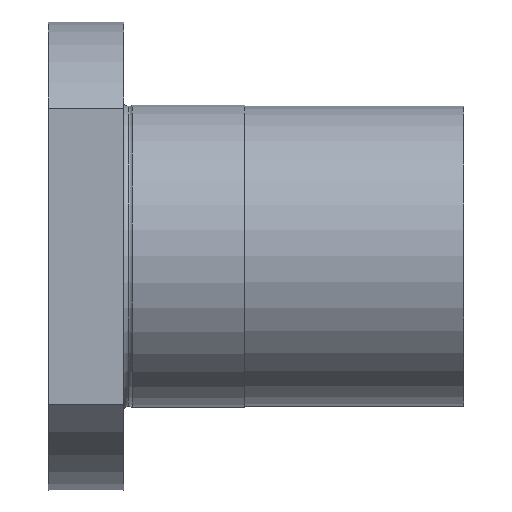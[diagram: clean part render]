
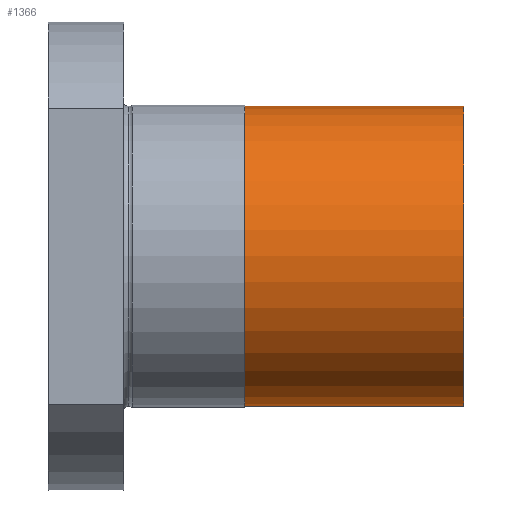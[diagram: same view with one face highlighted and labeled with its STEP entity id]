
A CAD part, front view. The second image highlights one B-rep face of the part: STEP entity #1366.
In plain terms, the highlighted cylindrical face has radius 19.85 mm (diameter 39.7 mm), a partial arc.
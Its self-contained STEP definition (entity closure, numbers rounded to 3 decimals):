
#78 = VERTEX_POINT ( 'NONE', #1785 ) ;
#137 = VERTEX_POINT ( 'NONE', #1100 ) ;
#192 = LINE ( 'NONE', #1280, #1933 ) ;
#232 = DIRECTION ( 'NONE',  ( 0., 0., 1. ) ) ;
#237 = CARTESIAN_POINT ( 'NONE',  ( -61.309, 0., -19.85 ) ) ;
#291 = CARTESIAN_POINT ( 'NONE',  ( -0.166, 0., 0. ) ) ;
#344 = EDGE_CURVE ( 'NONE', #137, #78, #1043, .T. ) ;
#387 = ORIENTED_EDGE ( 'NONE', *, *, #812, .T. ) ;
#399 = DIRECTION ( 'NONE',  ( -1., 0., 0. ) ) ;
#456 = DIRECTION ( 'NONE',  ( 0., 0., 1. ) ) ;
#484 = LINE ( 'NONE', #237, #873 ) ;
#612 = DIRECTION ( 'NONE',  ( -1., 0., 0. ) ) ;
#812 = EDGE_CURVE ( 'NONE', #1853, #1063, #1500, .T. ) ;
#873 = VECTOR ( 'NONE', #1489, 1000. ) ;
#918 = CYLINDRICAL_SURFACE ( 'NONE', #1741, 19.85 ) ;
#928 = EDGE_LOOP ( 'NONE', ( #1392, #387, #2117, #1075 ) ) ;
#1043 = CIRCLE ( 'NONE', #2129, 19.85 ) ;
#1063 = VERTEX_POINT ( 'NONE', #1803 ) ;
#1075 = ORIENTED_EDGE ( 'NONE', *, *, #344, .F. ) ;
#1080 = CARTESIAN_POINT ( 'NONE',  ( -0.166, 0., -19.85 ) ) ;
#1100 = CARTESIAN_POINT ( 'NONE',  ( -29.166, 0., -19.85 ) ) ;
#1280 = CARTESIAN_POINT ( 'NONE',  ( -61.309, 0., 19.85 ) ) ;
#1366 = ADVANCED_FACE ( 'NONE', ( #1546 ), #918, .T. ) ;
#1392 = ORIENTED_EDGE ( 'NONE', *, *, #2098, .F. ) ;
#1412 = CARTESIAN_POINT ( 'NONE',  ( -61.309, 0., 0. ) ) ;
#1473 = DIRECTION ( 'NONE',  ( -1., 0., 0. ) ) ;
#1489 = DIRECTION ( 'NONE',  ( -1., 0., 0. ) ) ;
#1500 = CIRCLE ( 'NONE', #2033, 19.85 ) ;
#1546 = FACE_OUTER_BOUND ( 'NONE', #928, .T. ) ;
#1633 = CARTESIAN_POINT ( 'NONE',  ( -29.166, 0., 0. ) ) ;
#1741 = AXIS2_PLACEMENT_3D ( 'NONE', #1412, #399, #232 ) ;
#1785 = CARTESIAN_POINT ( 'NONE',  ( -29.166, 0., 19.85 ) ) ;
#1803 = CARTESIAN_POINT ( 'NONE',  ( -0.166, 0., 19.85 ) ) ;
#1808 = DIRECTION ( 'NONE',  ( 0., 0., 1. ) ) ;
#1853 = VERTEX_POINT ( 'NONE', #1080 ) ;
#1916 = EDGE_CURVE ( 'NONE', #1063, #78, #192, .T. ) ;
#1933 = VECTOR ( 'NONE', #1975, 1000. ) ;
#1975 = DIRECTION ( 'NONE',  ( -1., 0., 0. ) ) ;
#2033 = AXIS2_PLACEMENT_3D ( 'NONE', #291, #1473, #456 ) ;
#2098 = EDGE_CURVE ( 'NONE', #1853, #137, #484, .T. ) ;
#2117 = ORIENTED_EDGE ( 'NONE', *, *, #1916, .T. ) ;
#2129 = AXIS2_PLACEMENT_3D ( 'NONE', #1633, #612, #1808 ) ;
